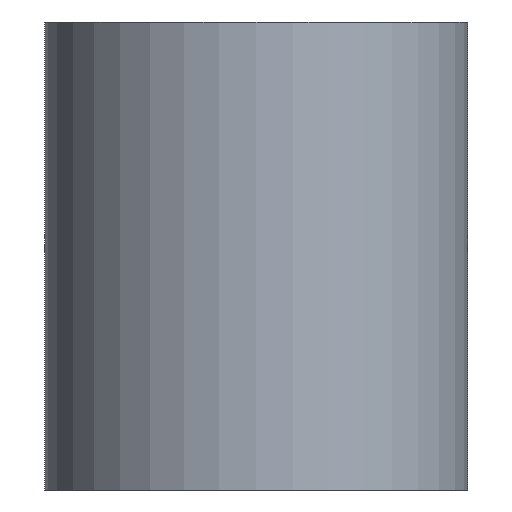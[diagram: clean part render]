
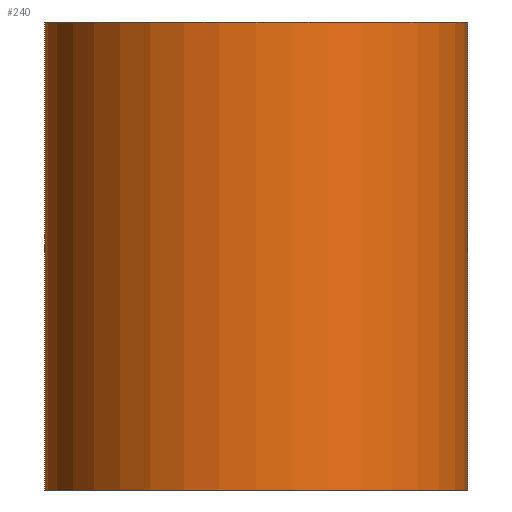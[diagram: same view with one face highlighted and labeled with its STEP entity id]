
A CAD part, front view. The second image highlights one B-rep face of the part: STEP entity #240.
In plain terms, the highlighted cylindrical face has radius 5.875 mm (diameter 11.75 mm), a partial arc.
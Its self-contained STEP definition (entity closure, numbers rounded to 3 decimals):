
#39 = EDGE_CURVE ( 'NONE', #198, #1033, #1425, .T. ) ;
#157 = CARTESIAN_POINT ( 'NONE',  ( 0., 0., -6.5 ) ) ;
#198 = VERTEX_POINT ( 'NONE', #1453 ) ;
#240 = ADVANCED_FACE ( 'NONE', ( #2018 ), #439, .T. ) ;
#266 = DIRECTION ( 'NONE',  ( -1., 0., 0. ) ) ;
#354 = AXIS2_PLACEMENT_3D ( 'NONE', #1058, #1782, #1419 ) ;
#383 = VECTOR ( 'NONE', #1819, 1000. ) ;
#439 = CYLINDRICAL_SURFACE ( 'NONE', #1759, 5.875 ) ;
#504 = CIRCLE ( 'NONE', #354, 5.875 ) ;
#572 = CARTESIAN_POINT ( 'NONE',  ( -5.875, 0., 6.5 ) ) ;
#705 = ORIENTED_EDGE ( 'NONE', *, *, #1987, .F. ) ;
#718 = VECTOR ( 'NONE', #1051, 1000. ) ;
#729 = LINE ( 'NONE', #1448, #383 ) ;
#754 = EDGE_CURVE ( 'NONE', #770, #1458, #729, .T. ) ;
#770 = VERTEX_POINT ( 'NONE', #572 ) ;
#873 = DIRECTION ( 'NONE',  ( 1., 0., 0. ) ) ;
#977 = CARTESIAN_POINT ( 'NONE',  ( 0., 0., 6.5 ) ) ;
#981 = EDGE_LOOP ( 'NONE', ( #2049, #705, #1393, #1339 ) ) ;
#998 = CIRCLE ( 'NONE', #1599, 5.875 ) ;
#1033 = VERTEX_POINT ( 'NONE', #1622 ) ;
#1051 = DIRECTION ( 'NONE',  ( 0., 0., -1. ) ) ;
#1058 = CARTESIAN_POINT ( 'NONE',  ( 0., 0., 6.5 ) ) ;
#1097 = CARTESIAN_POINT ( 'NONE',  ( -5.875, 0., -6.5 ) ) ;
#1162 = DIRECTION ( 'NONE',  ( 0., 0., -1. ) ) ;
#1339 = ORIENTED_EDGE ( 'NONE', *, *, #1359, .T. ) ;
#1359 = EDGE_CURVE ( 'NONE', #1458, #1033, #998, .T. ) ;
#1393 = ORIENTED_EDGE ( 'NONE', *, *, #754, .T. ) ;
#1419 = DIRECTION ( 'NONE',  ( 1., 0., 0. ) ) ;
#1425 = LINE ( 'NONE', #2141, #718 ) ;
#1448 = CARTESIAN_POINT ( 'NONE',  ( -5.875, 0., 6.5 ) ) ;
#1453 = CARTESIAN_POINT ( 'NONE',  ( 5.875, 0., 6.5 ) ) ;
#1458 = VERTEX_POINT ( 'NONE', #1097 ) ;
#1599 = AXIS2_PLACEMENT_3D ( 'NONE', #157, #1911, #873 ) ;
#1622 = CARTESIAN_POINT ( 'NONE',  ( 5.875, 0., -6.5 ) ) ;
#1759 = AXIS2_PLACEMENT_3D ( 'NONE', #977, #1162, #266 ) ;
#1782 = DIRECTION ( 'NONE',  ( 0., 0., 1. ) ) ;
#1819 = DIRECTION ( 'NONE',  ( 0., 0., -1. ) ) ;
#1911 = DIRECTION ( 'NONE',  ( 0., 0., 1. ) ) ;
#1987 = EDGE_CURVE ( 'NONE', #770, #198, #504, .T. ) ;
#2018 = FACE_OUTER_BOUND ( 'NONE', #981, .T. ) ;
#2049 = ORIENTED_EDGE ( 'NONE', *, *, #39, .F. ) ;
#2141 = CARTESIAN_POINT ( 'NONE',  ( 5.875, 0., 6.5 ) ) ;
